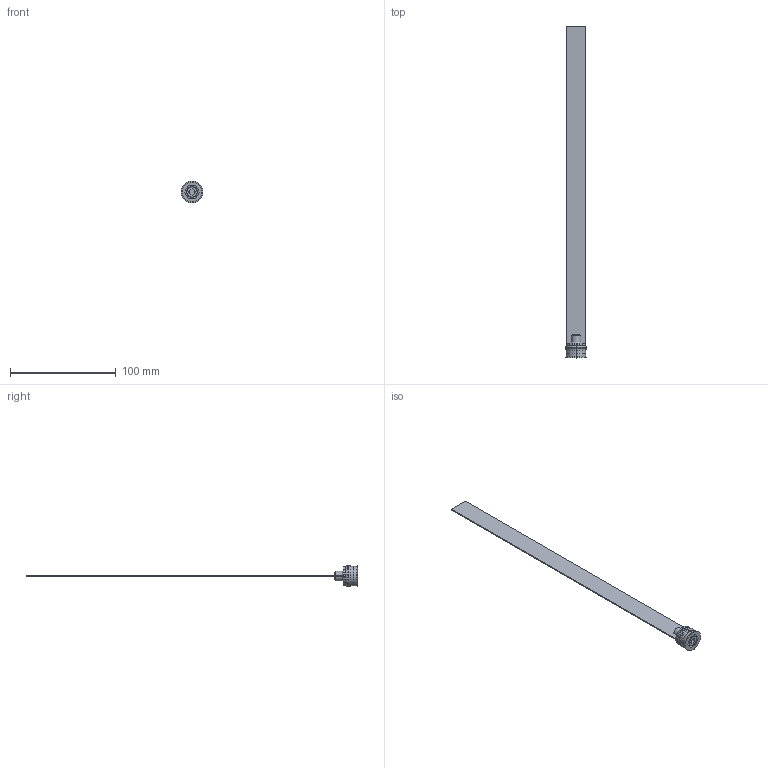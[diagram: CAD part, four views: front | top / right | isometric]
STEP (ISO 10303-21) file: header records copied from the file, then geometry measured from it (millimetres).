
FILE_DESCRIPTION (( 'STEP AP203' ), '1' );
FILE_NAME ('RL-19Fx300.STEP', '2015-12-04T10:03:53', ( 'Balzi' ), ( '' ), 'SwSTEP 2.0', 'SolidWorks 2015', '' );
FILE_SCHEMA (( 'CONFIG_CONTROL_DESIGN' ));
Length unit declared in the file: millimetre
Products named in the file (1): RL-19Fx300
Bounding box: 20.5 x 314 x 20.5 mm (x, y, z)
Volume: 9706.2 mm3; surface area: 14017.4 mm2
Topology: 1 solids, 1 shells, 75 faces, 177 edges, 109 vertices
Faces by surface type: plane 31, cone 19, cylinder 17, torus 8
Entity records: 2245 total; most frequent: CARTESIAN_POINT 412, DIRECTION 386, ORIENTED_EDGE 354, EDGE_CURVE 177, AXIS2_PLACEMENT_3D 147, VERTEX_POINT 109, LINE 92, VECTOR 92
